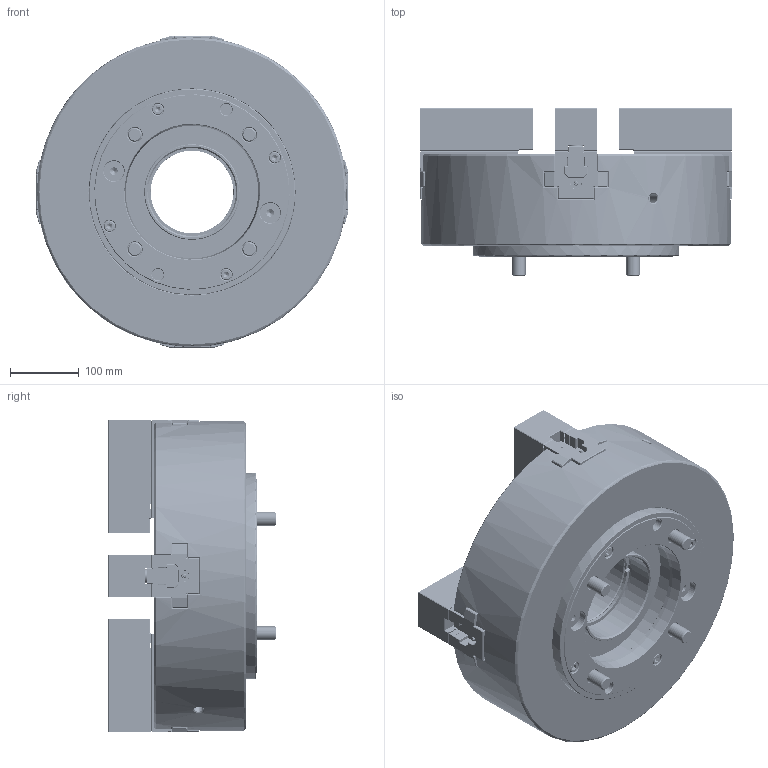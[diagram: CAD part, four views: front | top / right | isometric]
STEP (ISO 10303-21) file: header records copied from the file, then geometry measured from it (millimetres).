
FILE_DESCRIPTION(/* description */ (''),/* implementation_level */ '2;1');
FILE_NAME(/* name */ 'C:\Users\034\Desktop\需重新取代\OPF-218-A11.stp',/* time_stamp */ '2024-09-04T17:01:31+08:00',/* author */ ('034'),/* organization */ (''),/* preprocessor_version */ 'ST-DEVELOPER v16.13',/* originating_system */ 'Autodesk Inventor 2018',/* authorisation */ '');
FILE_SCHEMA (('AUTOMOTIVE_DESIGN { 1 0 10303 214 3 1 1 }'));
Products named in the file (1): OPF-218-A11
Bounding box: 453.62 x 243.29 x 453.62 mm (x, y, z)
Volume: 21608804.6 mm3; surface area: 1192321.7 mm2
Topology: 1 solids, 34 shells, 11158 faces, 38227 edges, 24262 vertices
Faces by surface type: plane 6755, cylinder 3463, bspline 464, cone 375, torus 97, sphere 4
Full cylindrical faces by diameter (mm): 3 x40, 3.4 x6, 4 x22, 4.5 x6, 4.8 x8, 5.1 x4, 5.2 x4, 6 x8, 7 x4, 7.53 x6, 8.6 x2, 10 x8, 11 x8, 12 x8, 14.1 x2, 16 x4, 17 x6, 20 x12, 21 x16, 29.4 x2, 30 x14, 32 x12, 60 x4, 120.1 x1, 123.5 x1, 125.9 x1, 126.3 x1, 128 x1, 131 x1, 137 x1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
Entity records: 415980 total; most frequent: CARTESIAN_POINT 84250, ORIENTED_EDGE 74952, DIRECTION 65069, EDGE_CURVE 37476, LINE 28425, VECTOR 28425, VERTEX_POINT 23995, AXIS2_PLACEMENT_3D 18322
